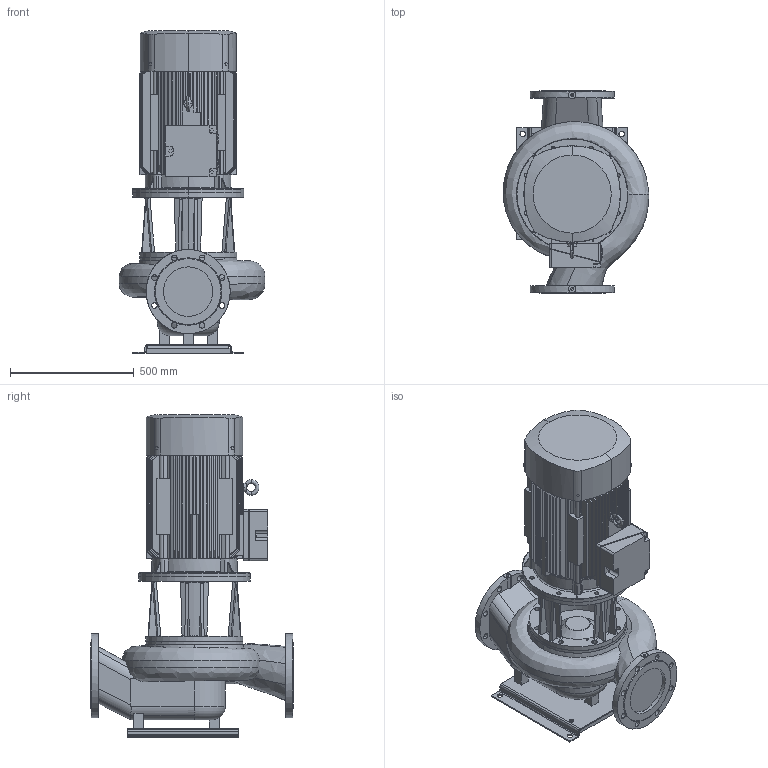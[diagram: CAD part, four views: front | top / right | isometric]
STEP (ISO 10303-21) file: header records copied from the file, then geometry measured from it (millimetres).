
FILE_DESCRIPTION(('STEP AP214'),'1');
FILE_NAME('export.stp','2018-05-29T13:41:28',(' '),(' '),'Spatial InterOp 3D',' ',' ');
FILE_SCHEMA(('AUTOMOTIVE_DESIGN { 1 0 10303 214 1 1 1 1 }'));
Length unit declared in the file: millimetre
Products named in the file (13): W_AL12024SD370; V_TLL100SAL1202; P100464; P100462; P101191; V_PPAL1202; IE3_VEM_224_S4C; PART1; PART2; PART3; PART4; PART5; P101334
Assembly tree (13 placements, depth 3):
  W_AL12024SD370
    V_TLL100SAL1202
    P100464
      P100462
      P101191  x2
    V_PPAL1202
    IE3_VEM_224_S4C
      PART1
      PART2
      PART3
      PART4
      PART5
    P101334
Bounding box: 589.1 x 820 x 1305 mm (x, y, z)
Volume: 141712424.7 mm3; surface area: 5624818.7 mm2
Topology: 11 solids, 11 shells, 1156 faces, 3269 edges, 2143 vertices
Faces by surface type: plane 510, cylinder 422, cone 150, torus 40, bspline 34
Entity records: 53947 total; most frequent: CARTESIAN_POINT 14467, ORIENTED_EDGE 6338, DIRECTION 5783, EDGE_CURVE 3169, AXIS2_PLACEMENT_3D 2117, VERTEX_POINT 2087, LINE 1549, VECTOR 1549
